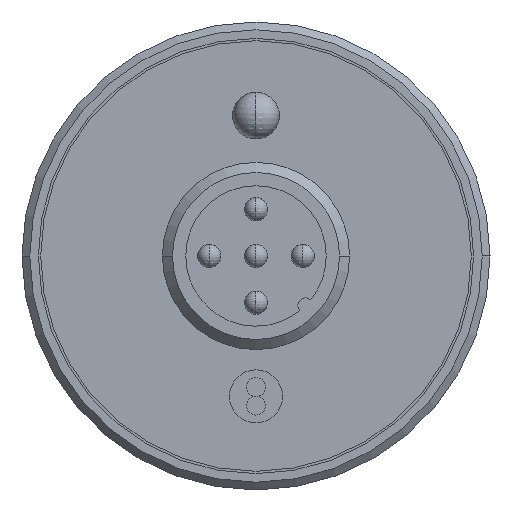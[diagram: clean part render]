
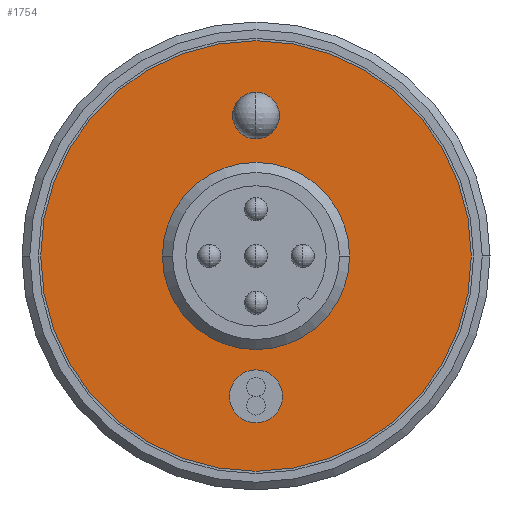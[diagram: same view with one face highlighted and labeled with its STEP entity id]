
A CAD part, left-side view. The second image highlights one B-rep face of the part: STEP entity #1754.
In plain terms, the highlighted planar face has unit normal (-1, 0, 0).
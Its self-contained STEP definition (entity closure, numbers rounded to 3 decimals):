
#696=CARTESIAN_POINT('',(-111.5,13.8,0.0));
#697=VERTEX_POINT('',#696);
#706=CARTESIAN_POINT('',(-111.5,-13.8,0.));
#707=VERTEX_POINT('',#706);
#708=CARTESIAN_POINT('',(-111.5,0.0,0.0));
#709=DIRECTION('',(1.0,0.0,0.0));
#710=DIRECTION('',(0.0,1.0,0.0));
#711=AXIS2_PLACEMENT_3D('',#708,#709,#710);
#712=CIRCLE('',#711,13.8);
#713=EDGE_CURVE('',#697,#707,#712,.T.);
#740=CARTESIAN_POINT('',(-111.5,5.35,0.0));
#741=VERTEX_POINT('',#740);
#757=CARTESIAN_POINT('',(-111.5,-5.35,0.));
#758=VERTEX_POINT('',#757);
#765=CARTESIAN_POINT('',(-111.5,0.0,0.0));
#766=DIRECTION('',(1.0,0.0,0.0));
#767=DIRECTION('',(0.0,1.0,0.0));
#768=AXIS2_PLACEMENT_3D('',#765,#766,#767);
#769=CIRCLE('',#768,5.35);
#770=EDGE_CURVE('',#741,#758,#769,.T.);
#1338=CARTESIAN_POINT('',(-111.5,0.0,10.5));
#1339=VERTEX_POINT('',#1338);
#1346=CARTESIAN_POINT('',(-111.5,0.,7.5));
#1347=VERTEX_POINT('',#1346);
#1348=CARTESIAN_POINT('',(-111.5,0.0,9.0));
#1349=DIRECTION('',(1.0,0.0,0.0));
#1350=DIRECTION('',(0.0,0.0,1.0));
#1351=AXIS2_PLACEMENT_3D('',#1348,#1349,#1350);
#1352=CIRCLE('',#1351,1.5);
#1353=EDGE_CURVE('',#1347,#1339,#1352,.T.);
#1379=CARTESIAN_POINT('',(-111.5,0.0,9.0));
#1380=DIRECTION('',(1.0,0.0,0.0));
#1381=DIRECTION('',(0.0,0.0,1.0));
#1382=AXIS2_PLACEMENT_3D('',#1379,#1380,#1381);
#1383=CIRCLE('',#1382,1.5);
#1384=EDGE_CURVE('',#1339,#1347,#1383,.T.);
#1719=CARTESIAN_POINT('',(-111.5,0.0,0.0));
#1720=DIRECTION('',(1.0,0.0,0.0));
#1721=DIRECTION('',(0.0,1.0,0.0));
#1722=AXIS2_PLACEMENT_3D('',#1719,#1720,#1721);
#1723=CIRCLE('',#1722,5.35);
#1724=EDGE_CURVE('',#758,#741,#1723,.T.);
#1731=CARTESIAN_POINT('',(-111.5,9.575,0.0));
#1732=DIRECTION('',(-1.0,0.0,0.0));
#1733=DIRECTION('',(0.0,0.0,1.0));
#1734=AXIS2_PLACEMENT_3D('',#1731,#1732,#1733);
#1735=PLANE('',#1734);
#1736=ORIENTED_EDGE('',*,*,#713,.F.);
#1737=CARTESIAN_POINT('',(-111.5,0.0,0.0));
#1738=DIRECTION('',(1.0,0.0,0.0));
#1739=DIRECTION('',(0.0,1.0,0.0));
#1740=AXIS2_PLACEMENT_3D('',#1737,#1738,#1739);
#1741=CIRCLE('',#1740,13.8);
#1742=EDGE_CURVE('',#707,#697,#1741,.T.);
#1743=ORIENTED_EDGE('',*,*,#1742,.F.);
#1744=EDGE_LOOP('',(#1736,#1743));
#1745=FACE_OUTER_BOUND('',#1744,.T.);
#1746=ORIENTED_EDGE('',*,*,#1384,.T.);
#1747=ORIENTED_EDGE('',*,*,#1353,.T.);
#1748=EDGE_LOOP('',(#1746,#1747));
#1749=FACE_BOUND('',#1748,.T.);
#1750=ORIENTED_EDGE('',*,*,#770,.T.);
#1751=ORIENTED_EDGE('',*,*,#1724,.T.);
#1752=EDGE_LOOP('',(#1750,#1751));
#1753=FACE_BOUND('',#1752,.T.);
#1754=ADVANCED_FACE('',(#1745,#1749,#1753),#1735,.T.);
